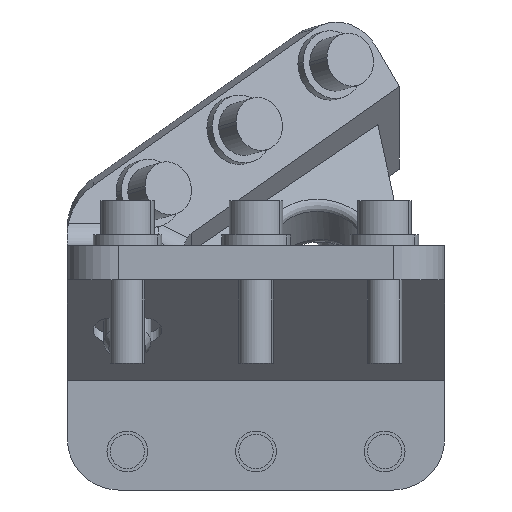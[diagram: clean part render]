
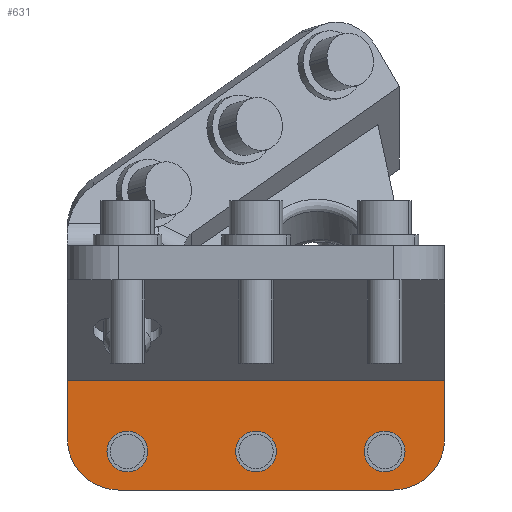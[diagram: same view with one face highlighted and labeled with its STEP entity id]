
A CAD part, front view. The second image highlights one B-rep face of the part: STEP entity #631.
In plain terms, the highlighted planar face has unit normal (0, -1, 0).
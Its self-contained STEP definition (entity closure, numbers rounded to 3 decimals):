
#631=ADVANCED_FACE('Pocket.2',(#1482,#1483,#1484,#1485),#1486,.T.);
#1482=FACE_OUTER_BOUND('',#2658,.T.);
#1483=FACE_BOUND('',#2659,.T.);
#1484=FACE_BOUND('',#2660,.T.);
#1485=FACE_BOUND('',#2661,.T.);
#1486=PLANE('',#2662);
#2658=EDGE_LOOP('',(#4704,#4705,#4706,#4707,#4708,#4709));
#2659=EDGE_LOOP('',(#4710,#4711,#4712,#4713));
#2660=EDGE_LOOP('',(#4714,#4715,#4716,#4717));
#2661=EDGE_LOOP('',(#4718,#4719,#4720,#4721));
#2662=AXIS2_PLACEMENT_3D('',#4722,#4723,#4724);
#4704=ORIENTED_EDGE('',*,*,#7369,.F.);
#4705=ORIENTED_EDGE('',*,*,#7370,.F.);
#4706=ORIENTED_EDGE('',*,*,#7275,.T.);
#4707=ORIENTED_EDGE('',*,*,#7363,.T.);
#4708=ORIENTED_EDGE('',*,*,#7342,.F.);
#4709=ORIENTED_EDGE('',*,*,#7371,.F.);
#4710=ORIENTED_EDGE('',*,*,#7094,.F.);
#4711=ORIENTED_EDGE('',*,*,#7097,.F.);
#4712=ORIENTED_EDGE('',*,*,#7372,.F.);
#4713=ORIENTED_EDGE('',*,*,#7373,.F.);
#4714=ORIENTED_EDGE('',*,*,#7139,.F.);
#4715=ORIENTED_EDGE('',*,*,#7142,.F.);
#4716=ORIENTED_EDGE('',*,*,#7374,.F.);
#4717=ORIENTED_EDGE('',*,*,#7375,.F.);
#4718=ORIENTED_EDGE('',*,*,#7058,.F.);
#4719=ORIENTED_EDGE('',*,*,#7061,.F.);
#4720=ORIENTED_EDGE('',*,*,#7376,.F.);
#4721=ORIENTED_EDGE('',*,*,#7377,.F.);
#4722=CARTESIAN_POINT('',(164.0,-2.661,-33.403));
#4723=DIRECTION('',(0.0,-1.0,0.0));
#4724=DIRECTION('',(0.0,0.0,1.0));
#7058=EDGE_CURVE('',#8247,#8243,#8249,.T.);
#7061=EDGE_CURVE('',#8251,#8247,#8254,.T.);
#7094=EDGE_CURVE('',#8307,#8303,#8309,.T.);
#7097=EDGE_CURVE('',#8311,#8307,#8314,.T.);
#7139=EDGE_CURVE('',#8382,#8378,#8384,.T.);
#7142=EDGE_CURVE('',#8386,#8382,#8389,.T.);
#7275=EDGE_CURVE('',#8609,#8607,#8610,.T.);
#7342=EDGE_CURVE('',#8702,#8704,#8705,.T.);
#7363=EDGE_CURVE('',#8607,#8704,#8733,.T.);
#7369=EDGE_CURVE('',#8741,#8742,#8743,.T.);
#7370=EDGE_CURVE('',#8609,#8741,#8744,.F.);
#7371=EDGE_CURVE('',#8742,#8702,#8745,.F.);
#7372=EDGE_CURVE('',#8746,#8311,#8747,.T.);
#7373=EDGE_CURVE('',#8303,#8746,#8748,.T.);
#7374=EDGE_CURVE('',#8749,#8386,#8750,.T.);
#7375=EDGE_CURVE('',#8378,#8749,#8751,.T.);
#7376=EDGE_CURVE('',#8752,#8251,#8753,.T.);
#7377=EDGE_CURVE('',#8243,#8752,#8754,.T.);
#8243=VERTEX_POINT('',#10048);
#8247=VERTEX_POINT('',#10053);
#8249=CIRCLE('',#10056,4.75);
#8251=VERTEX_POINT('',#10058);
#8254=CIRCLE('',#10062,4.75);
#8303=VERTEX_POINT('',#10120);
#8307=VERTEX_POINT('',#10125);
#8309=CIRCLE('',#10128,4.75);
#8311=VERTEX_POINT('',#10130);
#8314=CIRCLE('',#10134,4.75);
#8378=VERTEX_POINT('',#10210);
#8382=VERTEX_POINT('',#10215);
#8384=CIRCLE('',#10218,4.75);
#8386=VERTEX_POINT('',#10220);
#8389=CIRCLE('',#10224,4.75);
#8607=VERTEX_POINT('',#10627);
#8609=VERTEX_POINT('',#10630);
#8610=LINE('',#10631,#10632);
#8702=VERTEX_POINT('',#10817);
#8704=VERTEX_POINT('',#10820);
#8705=LINE('',#10821,#10822);
#8733=LINE('',#10857,#10858);
#8741=VERTEX_POINT('',#10868);
#8742=VERTEX_POINT('',#10869);
#8743=LINE('',#10870,#10871);
#8744=CIRCLE('',#10872,12.0);
#8745=CIRCLE('',#10873,12.0);
#8746=VERTEX_POINT('',#10874);
#8747=CIRCLE('',#10875,4.75);
#8748=CIRCLE('',#10876,4.75);
#8749=VERTEX_POINT('',#10877);
#8750=CIRCLE('',#10878,4.75);
#8751=CIRCLE('',#10879,4.75);
#8752=VERTEX_POINT('',#10880);
#8753=CIRCLE('',#10881,4.75);
#8754=CIRCLE('',#10882,4.75);
#10048=CARTESIAN_POINT('',(94.75,-2.661,-24.4));
#10053=CARTESIAN_POINT('',(85.831,-2.661,-26.677));
#10056=AXIS2_PLACEMENT_3D('',#12490,#12491,#12492);
#10058=CARTESIAN_POINT('',(85.25,-2.661,-24.4));
#10062=AXIS2_PLACEMENT_3D('',#12494,#12495,#12496);
#10120=CARTESIAN_POINT('',(154.75,-2.661,-24.4));
#10125=CARTESIAN_POINT('',(145.831,-2.661,-26.677));
#10128=AXIS2_PLACEMENT_3D('',#12550,#12551,#12552);
#10130=CARTESIAN_POINT('',(145.25,-2.661,-24.4));
#10134=AXIS2_PLACEMENT_3D('',#12554,#12555,#12556);
#10210=CARTESIAN_POINT('',(124.75,-2.661,-24.4));
#10215=CARTESIAN_POINT('',(115.831,-2.661,-26.677));
#10218=AXIS2_PLACEMENT_3D('',#12625,#12626,#12627);
#10220=CARTESIAN_POINT('',(115.25,-2.661,-24.4));
#10224=AXIS2_PLACEMENT_3D('',#12629,#12630,#12631);
#10627=CARTESIAN_POINT('',(164.0,-2.661,-7.831));
#10630=CARTESIAN_POINT('',(164.0,-2.661,-21.403));
#10631=CARTESIAN_POINT('',(164.0,-2.661,-14.617));
#10632=VECTOR('',#12819,1.0);
#10817=CARTESIAN_POINT('',(76.0,-2.661,-21.403));
#10820=CARTESIAN_POINT('',(76.0,-2.661,-7.831));
#10821=CARTESIAN_POINT('',(76.0,-2.661,-14.617));
#10822=VECTOR('',#12912,1.0);
#10857=CARTESIAN_POINT('',(120.0,-2.661,-7.831));
#10858=VECTOR('',#12944,1.0);
#10868=CARTESIAN_POINT('',(152.0,-2.661,-33.403));
#10869=CARTESIAN_POINT('',(88.0,-2.661,-33.403));
#10870=CARTESIAN_POINT('',(120.0,-2.661,-33.403));
#10871=VECTOR('',#12953,1.0);
#10872=AXIS2_PLACEMENT_3D('',#12954,#12955,#12956);
#10873=AXIS2_PLACEMENT_3D('',#12957,#12958,#12959);
#10874=CARTESIAN_POINT('',(154.169,-2.661,-22.123));
#10875=AXIS2_PLACEMENT_3D('',#12960,#12961,#12962);
#10876=AXIS2_PLACEMENT_3D('',#12963,#12964,#12965);
#10877=CARTESIAN_POINT('',(124.169,-2.661,-22.123));
#10878=AXIS2_PLACEMENT_3D('',#12966,#12967,#12968);
#10879=AXIS2_PLACEMENT_3D('',#12969,#12970,#12971);
#10880=CARTESIAN_POINT('',(94.169,-2.661,-22.123));
#10881=AXIS2_PLACEMENT_3D('',#12972,#12973,#12974);
#10882=AXIS2_PLACEMENT_3D('',#12975,#12976,#12977);
#12490=CARTESIAN_POINT('',(90.0,-2.661,-24.4));
#12491=DIRECTION('',(0.0,-1.0,0.0));
#12492=DIRECTION('',(0.0,0.0,1.0));
#12494=CARTESIAN_POINT('',(90.0,-2.661,-24.4));
#12495=DIRECTION('',(0.0,-1.0,0.0));
#12496=DIRECTION('',(0.0,0.0,1.0));
#12550=CARTESIAN_POINT('',(150.0,-2.661,-24.4));
#12551=DIRECTION('',(0.0,-1.0,0.0));
#12552=DIRECTION('',(0.0,0.0,1.0));
#12554=CARTESIAN_POINT('',(150.0,-2.661,-24.4));
#12555=DIRECTION('',(0.0,-1.0,0.0));
#12556=DIRECTION('',(0.0,0.0,1.0));
#12625=CARTESIAN_POINT('',(120.0,-2.661,-24.4));
#12626=DIRECTION('',(0.0,-1.0,0.0));
#12627=DIRECTION('',(0.0,0.0,1.0));
#12629=CARTESIAN_POINT('',(120.0,-2.661,-24.4));
#12630=DIRECTION('',(0.0,-1.0,0.0));
#12631=DIRECTION('',(0.0,0.0,1.0));
#12819=DIRECTION('',(0.0,0.0,1.0));
#12912=DIRECTION('',(0.0,0.0,1.0));
#12944=DIRECTION('',(-1.0,0.0,0.0));
#12953=DIRECTION('',(-1.0,0.0,0.0));
#12954=CARTESIAN_POINT('',(152.0,-2.661,-21.403));
#12955=DIRECTION('',(0.0,-1.0,0.0));
#12956=DIRECTION('',(0.0,0.0,1.0));
#12957=CARTESIAN_POINT('',(88.0,-2.661,-21.403));
#12958=DIRECTION('',(0.0,-1.0,0.0));
#12959=DIRECTION('',(0.0,0.0,1.0));
#12960=CARTESIAN_POINT('',(150.0,-2.661,-24.4));
#12961=DIRECTION('',(0.0,-1.0,0.0));
#12962=DIRECTION('',(0.0,0.0,1.0));
#12963=CARTESIAN_POINT('',(150.0,-2.661,-24.4));
#12964=DIRECTION('',(0.0,-1.0,0.0));
#12965=DIRECTION('',(0.0,0.0,1.0));
#12966=CARTESIAN_POINT('',(120.0,-2.661,-24.4));
#12967=DIRECTION('',(0.0,-1.0,0.0));
#12968=DIRECTION('',(0.0,0.0,1.0));
#12969=CARTESIAN_POINT('',(120.0,-2.661,-24.4));
#12970=DIRECTION('',(0.0,-1.0,0.0));
#12971=DIRECTION('',(0.0,0.0,1.0));
#12972=CARTESIAN_POINT('',(90.0,-2.661,-24.4));
#12973=DIRECTION('',(0.0,-1.0,0.0));
#12974=DIRECTION('',(0.0,0.0,1.0));
#12975=CARTESIAN_POINT('',(90.0,-2.661,-24.4));
#12976=DIRECTION('',(0.0,-1.0,0.0));
#12977=DIRECTION('',(0.0,0.0,1.0));
